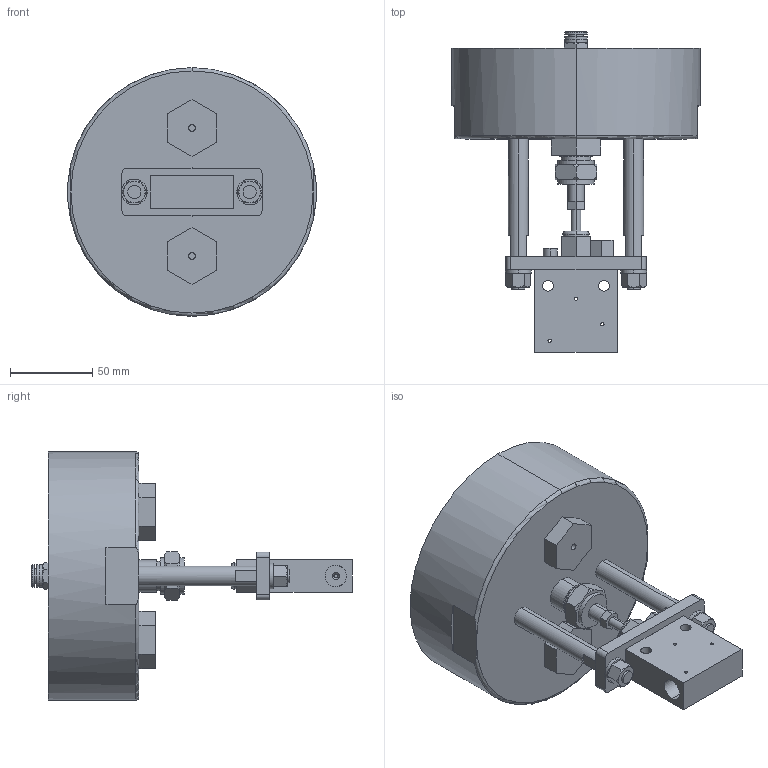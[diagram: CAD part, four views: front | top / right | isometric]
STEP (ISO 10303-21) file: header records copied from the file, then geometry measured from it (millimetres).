
FILE_DESCRIPTION (( 'STEP AP203' ), '1' );
FILE_NAME ('AOV20OS06-S.STEP', '2025-05-15T05:07:17', ( '' ), ( '' ), 'SwSTEP 2.0', 'SolidWorks 2023', '' );
FILE_SCHEMA (( 'CONFIG_CONTROL_DESIGN' ));
Length unit declared in the file: millimetre
Products named in the file (1): AOV20OS06-S
Bounding box: 151 x 194.56 x 151 mm (x, y, z)
Volume: 1015958.7 mm3; surface area: 95170.7 mm2
Topology: 1 solids, 1 shells, 287 faces, 710 edges, 459 vertices
Faces by surface type: plane 144, cylinder 88, cone 44, torus 11
Entity records: 9155 total; most frequent: CARTESIAN_POINT 2137, DIRECTION 1462, ORIENTED_EDGE 1420, EDGE_CURVE 710, AXIS2_PLACEMENT_3D 550, VERTEX_POINT 459, LINE 362, VECTOR 362
